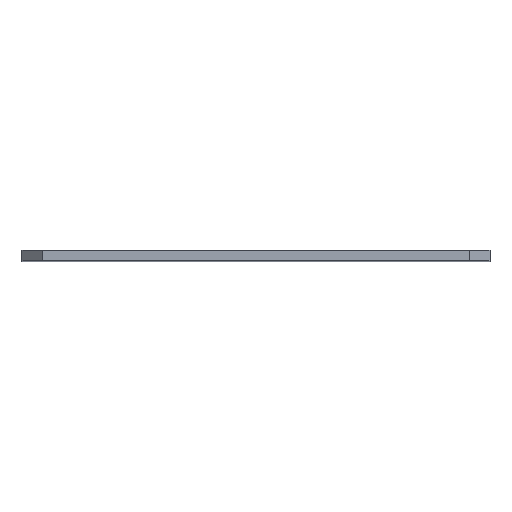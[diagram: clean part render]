
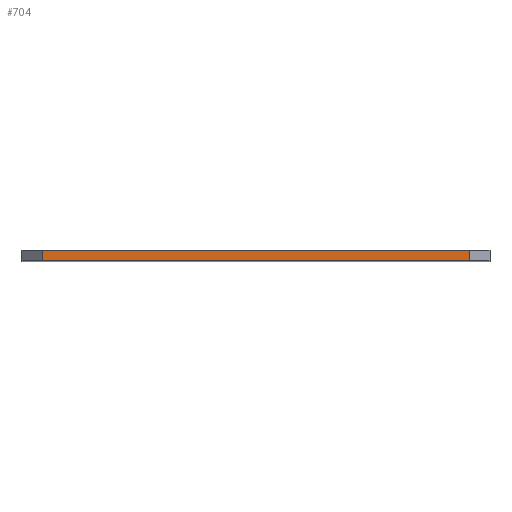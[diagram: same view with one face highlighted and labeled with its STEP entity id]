
A CAD part, top view. The second image highlights one B-rep face of the part: STEP entity #704.
In plain terms, the highlighted planar face has unit normal (0, 0, 1).
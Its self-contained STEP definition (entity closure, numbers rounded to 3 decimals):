
#1 = VERTEX_POINT ( 'NONE', #187 ) ;
#8 = DIRECTION ( 'NONE',  ( 1., 0., 0. ) ) ;
#25 = DIRECTION ( 'NONE',  ( 0., 0., -1. ) ) ;
#92 = CARTESIAN_POINT ( 'NONE',  ( 10.5, 0., 21.5 ) ) ;
#99 = LINE ( 'NONE', #605, #221 ) ;
#187 = CARTESIAN_POINT ( 'NONE',  ( -10.5, 0., 21.5 ) ) ;
#221 = VECTOR ( 'NONE', #8, 1000. ) ;
#277 = EDGE_CURVE ( 'NONE', #718, #895, #1083, .T. ) ;
#292 = CARTESIAN_POINT ( 'NONE',  ( 10.5, 0.5, 21.5 ) ) ;
#301 = CARTESIAN_POINT ( 'NONE',  ( -10.5, 0.5, 21.5 ) ) ;
#340 = ORIENTED_EDGE ( 'NONE', *, *, #672, .T. ) ;
#364 = ORIENTED_EDGE ( 'NONE', *, *, #757, .T. ) ;
#366 = DIRECTION ( 'NONE',  ( 1., 0., 0. ) ) ;
#375 = VECTOR ( 'NONE', #1030, 1000. ) ;
#509 = DIRECTION ( 'NONE',  ( -1., 0., 0. ) ) ;
#521 = ORIENTED_EDGE ( 'NONE', *, *, #277, .T. ) ;
#526 = DIRECTION ( 'NONE',  ( 0., -1., 0. ) ) ;
#533 = EDGE_CURVE ( 'NONE', #1006, #895, #1053, .T. ) ;
#542 = CARTESIAN_POINT ( 'NONE',  ( -11.5, 0.5, 21.5 ) ) ;
#605 = CARTESIAN_POINT ( 'NONE',  ( -11.5, 0., 21.5 ) ) ;
#660 = VECTOR ( 'NONE', #366, 1000. ) ;
#672 = EDGE_CURVE ( 'NONE', #1, #718, #99, .T. ) ;
#702 = CARTESIAN_POINT ( 'NONE',  ( -10.5, 0.5, 21.5 ) ) ;
#704 = ADVANCED_FACE ( 'NONE', ( #786 ), #934, .F. ) ;
#718 = VERTEX_POINT ( 'NONE', #92 ) ;
#737 = AXIS2_PLACEMENT_3D ( 'NONE', #852, #25, #509 ) ;
#757 = EDGE_CURVE ( 'NONE', #1006, #1, #782, .T. ) ;
#782 = LINE ( 'NONE', #702, #1047 ) ;
#786 = FACE_OUTER_BOUND ( 'NONE', #889, .T. ) ;
#835 = ORIENTED_EDGE ( 'NONE', *, *, #533, .F. ) ;
#852 = CARTESIAN_POINT ( 'NONE',  ( -11.5, 0.5, 21.5 ) ) ;
#889 = EDGE_LOOP ( 'NONE', ( #835, #364, #340, #521 ) ) ;
#895 = VERTEX_POINT ( 'NONE', #292 ) ;
#921 = CARTESIAN_POINT ( 'NONE',  ( 10.5, 0.5, 21.5 ) ) ;
#934 = PLANE ( 'NONE',  #737 ) ;
#1006 = VERTEX_POINT ( 'NONE', #301 ) ;
#1030 = DIRECTION ( 'NONE',  ( 0., 1., 0. ) ) ;
#1047 = VECTOR ( 'NONE', #526, 1000. ) ;
#1053 = LINE ( 'NONE', #542, #660 ) ;
#1083 = LINE ( 'NONE', #921, #375 ) ;
